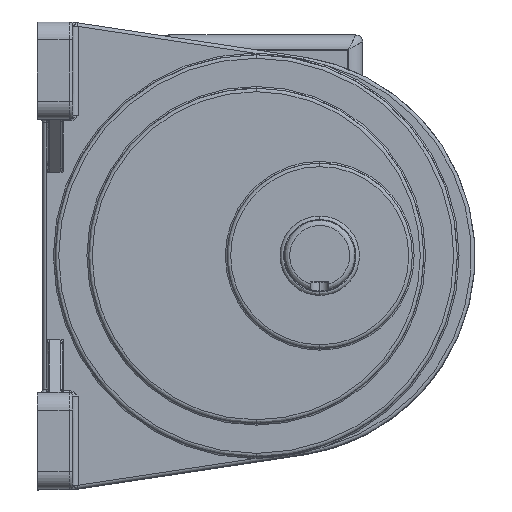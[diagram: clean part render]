
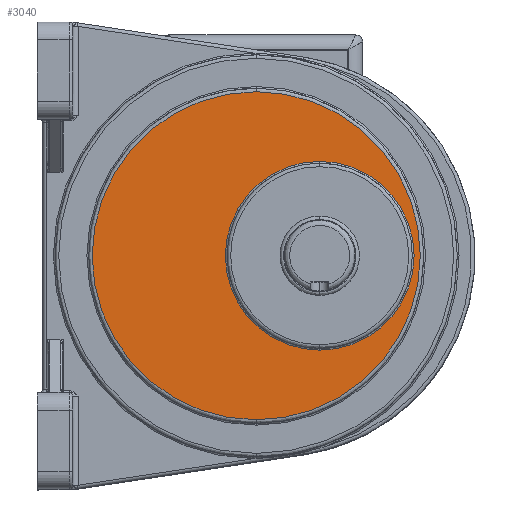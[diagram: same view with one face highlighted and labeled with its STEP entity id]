
A CAD part, top view. The second image highlights one B-rep face of the part: STEP entity #3040.
In plain terms, the highlighted planar face has unit normal (0, 0, 1).
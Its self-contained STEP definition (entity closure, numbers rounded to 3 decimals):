
#3017 = ORIENTED_EDGE ( 'NONE', *, *, #3039, .F. ) ;
#3018 = ORIENTED_EDGE ( 'NONE', *, *, #40936, .F. ) ;
#3019 = EDGE_LOOP ( 'NONE', ( #3020, #3021 ) ) ;
#3020 = ORIENTED_EDGE ( 'NONE', *, *, #3030, .T. ) ;
#3021 = ORIENTED_EDGE ( 'NONE', *, *, #40946, .T. ) ;
#3030 = EDGE_CURVE ( 'NONE', #40952, #40950, #41126, .T. ) ;
#3039 = EDGE_CURVE ( 'NONE', #40937, #41000, #41187, .T. ) ;
#3040 = ADVANCED_FACE ( 'NONE', ( #41190, #41280 ), #41278, .T. ) ;
#3041 = EDGE_LOOP ( 'NONE', ( #3017, #3018 ) ) ;
#35289 = CARTESIAN_POINT ( 'NONE',  ( 53.5, 36., 145.5 ) ) ;
#35290 = DIRECTION ( 'NONE',  ( 1., 0., 0. ) ) ;
#35291 = DIRECTION ( 'NONE',  ( 0., 0., 1. ) ) ;
#35292 = CARTESIAN_POINT ( 'NONE',  ( 0., 36., 145.5 ) ) ;
#35293 = AXIS2_PLACEMENT_3D ( 'NONE', #35292, #35291, #35290 ) ;
#35294 = CIRCLE ( 'NONE', #35293, 53.5 ) ;
#35330 = DIRECTION ( 'NONE',  ( -1., 0., 0. ) ) ;
#35331 = DIRECTION ( 'NONE',  ( 0., 0., 1. ) ) ;
#35332 = CARTESIAN_POINT ( 'NONE',  ( 0., 0., 145.5 ) ) ;
#35333 = AXIS2_PLACEMENT_3D ( 'NONE', #35332, #35331, #35330 ) ;
#35334 = CIRCLE ( 'NONE', #35333, 93. ) ;
#35362 = CARTESIAN_POINT ( 'NONE',  ( 93., 0., 145.5 ) ) ;
#35363 = CARTESIAN_POINT ( 'NONE',  ( -93., 0., 145.5 ) ) ;
#35393 = CARTESIAN_POINT ( 'NONE',  ( -53.5, 36., 145.5 ) ) ;
#40936 = EDGE_CURVE ( 'NONE', #41000, #40937, #35294, .T. ) ;
#40937 = VERTEX_POINT ( 'NONE', #35289 ) ;
#40946 = EDGE_CURVE ( 'NONE', #40950, #40952, #35334, .T. ) ;
#40950 = VERTEX_POINT ( 'NONE', #35363 ) ;
#40952 = VERTEX_POINT ( 'NONE', #35362 ) ;
#41000 = VERTEX_POINT ( 'NONE', #35393 ) ;
#41096 = CARTESIAN_POINT ( 'NONE',  ( 0., 0., 145.5 ) ) ;
#41118 = DIRECTION ( 'NONE',  ( -1., 0., 0. ) ) ;
#41121 = DIRECTION ( 'NONE',  ( 0., 0., 1. ) ) ;
#41124 = AXIS2_PLACEMENT_3D ( 'NONE', #41096, #41121, #41118 ) ;
#41126 = CIRCLE ( 'NONE', #41124, 93. ) ;
#41180 = DIRECTION ( 'NONE',  ( 1., 0., 0. ) ) ;
#41182 = DIRECTION ( 'NONE',  ( 0., 0., 1. ) ) ;
#41185 = AXIS2_PLACEMENT_3D ( 'NONE', #41334, #41182, #41180 ) ;
#41187 = CIRCLE ( 'NONE', #41185, 53.5 ) ;
#41190 = FACE_BOUND ( 'NONE', #3041, .T. ) ;
#41265 = DIRECTION ( 'NONE',  ( 0., 0., 1. ) ) ;
#41267 = CARTESIAN_POINT ( 'NONE',  ( 0., 0., 145.5 ) ) ;
#41268 = AXIS2_PLACEMENT_3D ( 'NONE', #41267, #41265, #41449 ) ;
#41278 = PLANE ( 'NONE',  #41268 ) ;
#41280 = FACE_OUTER_BOUND ( 'NONE', #3019, .T. ) ;
#41334 = CARTESIAN_POINT ( 'NONE',  ( 0., 36., 145.5 ) ) ;
#41449 = DIRECTION ( 'NONE',  ( 1., 0., 0. ) ) ;
